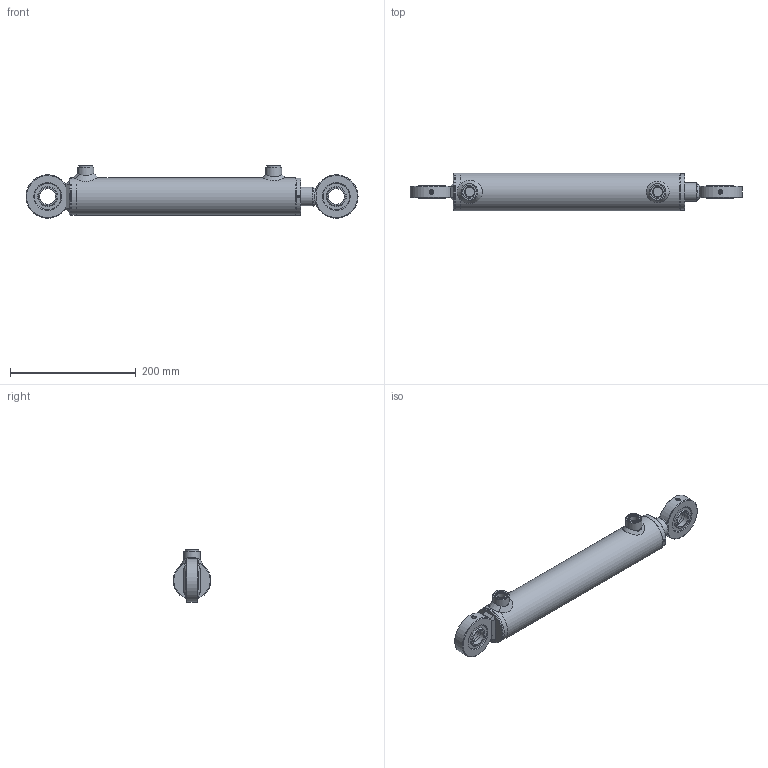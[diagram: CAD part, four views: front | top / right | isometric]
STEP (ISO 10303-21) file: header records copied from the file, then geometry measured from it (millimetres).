
FILE_DESCRIPTION( ( 'Unknown' ), '1' );
FILE_NAME( 'E:/LIBRERIA_3d/CILINDRI/HMC/HMC2300250.stp', 'Unknown', ( 'Unknown' ), ( 'Unknown' ), 'PSStep 17.0.49', 'Unknown', ' ' );
FILE_SCHEMA( ( 'AUTOMOTIVE_DESIGN { 1 0 10303 214 1 1 1 1 }' ) );
Length unit declared in the file: millimetre
Products named in the file (27): CT00050020; CG06005030; STL2500250-oa6; Saldatura d'angolo 1-oa4; FTM2500250-oa5; CBSC220600; CAGEG06904225; CAGE069042; cge0250000; HM02300250; Saldatura con preparazione 1-oa2; Saldatura d'angolo 1-oa3; CF00050060; CBS0600000; CDA0002015; APG0600000; SBL3020250; Assem1; Saldatura d'angolo 1-oa0; Saldatura d'angolo 2-oa1
Assembly tree (20 placements, depth 4):
  Saldatura d'angolo 1-oa4
  Saldatura d'angolo 1-oa4
  Saldatura d'angolo 1-oa3
  Saldatura d'angolo 1-oa3
  Assem1
    CAGEG06904225  x2
      CAGE069042
      cge0250000
    HM02300250
      Saldatura con preparazione 1-oa2
      Saldatura con preparazione 1-oa2
      CF00050060
      CBS0600000
      CDA0002015
      APG0600000  x2
      SBL3020250
      CG06005030
        CG06005030
      CT00050020
        CT00050020
      STL2500250-oa6
        FTM2500250-oa5
        CBSC220600
Bounding box: 528 x 60 x 83.5 mm (x, y, z)
Volume: 817080.9 mm3; surface area: 264153.3 mm2
Topology: 24 solids, 24 shells, 365 faces, 769 edges, 463 vertices
Faces by surface type: plane 108, bspline 94, cylinder 79, cone 42, torus 38, sphere 4
Full cylindrical faces by diameter (mm): 2 x4, 4 x2, 4.25 x1, 5 x4, 7 x2, 14.95 x2, 16 x2, 16.6 x2, 19.4 x1, 20 x5, 22 x2, 24.5 x1, 25 x4, 26 x2, 30 x5, 32 x1, 33 x1, 34 x1, 38.6 x1, 40 x3, 42 x6, 45 x1, 45.41 x2, 48.66 x2, 49.9 x1, 50 x1, 50.3 x1, 50.5 x1, 50.6 x1, 51 x1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
Entity records: 18053 total; most frequent: CARTESIAN_POINT 9751, DIRECTION 992, ORIENTED_EDGE 968, EDGE_LOOP 522, EDGE_CURVE 484, AXIS2_PLACEMENT_3D 452, FACE_OUTER_BOUND 429, VERTEX_POINT 357
